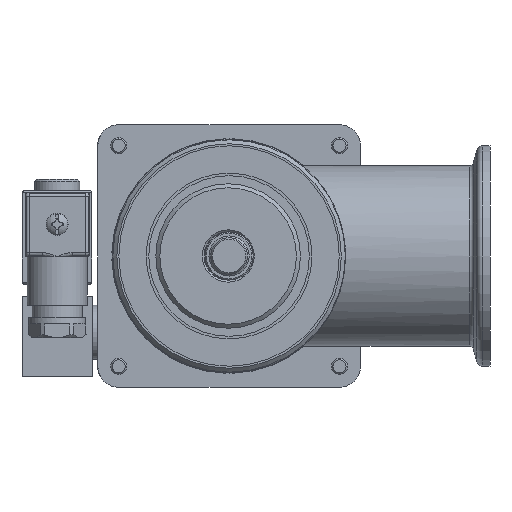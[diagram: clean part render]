
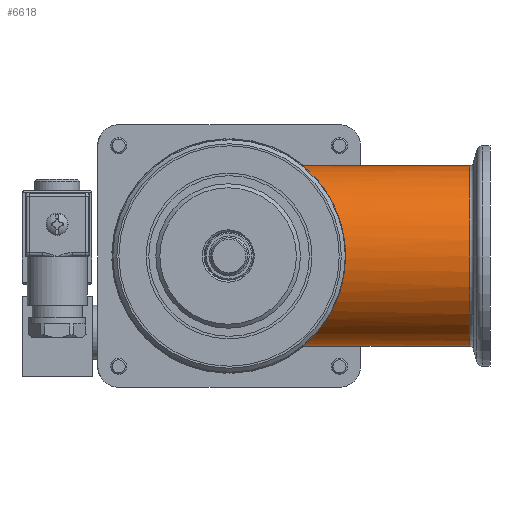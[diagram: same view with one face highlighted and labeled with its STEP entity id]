
A CAD part, front view. The second image highlights one B-rep face of the part: STEP entity #6618.
In plain terms, the highlighted cylindrical face has radius 22.5 mm (diameter 45 mm), a full revolution.
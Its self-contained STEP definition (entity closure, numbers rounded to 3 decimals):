
#1906=B_SPLINE_CURVE_WITH_KNOTS('',3,(#21176,#21177,#21178,#21179,#21180,
#21181,#21182,#21183,#21184,#21185,#21186,#21187,#21188,#21189,#21190,#21191,
#21192,#21193,#21194,#21195,#21196,#21197,#21198,#21199,#21200,#21201,#21202,
#21203,#21204,#21205,#21206,#21207,#21208,#21209),.UNSPECIFIED.,.T.,.F.,
(2,2,2,2,2,2,2,2,2,2,2,2,2,2,2,2,2,2,2),(-0.063,0.,0.063,0.125,0.188,
0.25,0.313,0.375,0.438,0.5,0.563,0.625,0.688,0.75,0.813,0.875,0.938,
1.,1.063),.UNSPECIFIED.);
#5833=CYLINDRICAL_SURFACE('',#16058,22.5);
#6128=FACE_BOUND('',#8384,.T.);
#6129=FACE_BOUND('',#8385,.T.);
#6618=ADVANCED_FACE('',(#6128,#6129),#5833,.T.);
#8384=EDGE_LOOP('',(#9584));
#8385=EDGE_LOOP('',(#9585));
#9584=ORIENTED_EDGE('',*,*,#13880,.T.);
#9585=ORIENTED_EDGE('',*,*,#13881,.F.);
#12665=VERTEX_POINT('',#21175);
#12666=VERTEX_POINT('',#21210);
#13880=EDGE_CURVE('',#12665,#12665,#15444,.T.);
#13881=EDGE_CURVE('',#12666,#12666,#1906,.T.);
#15444=CIRCLE('',#16057,22.5);
#16057=AXIS2_PLACEMENT_3D('',#21174,#17590,#17591);
#16058=AXIS2_PLACEMENT_3D('',#21211,#17592,#17593);
#17590=DIRECTION('',(1.,0.,0.));
#17591=DIRECTION('',(0.,0.,1.));
#17592=DIRECTION('',(-1.,0.,0.));
#17593=DIRECTION('',(0.,0.,1.));
#21174=CARTESIAN_POINT('',(5.094,0.,0.));
#21175=CARTESIAN_POINT('',(5.094,0.,22.5));
#21176=CARTESIAN_POINT('',(46.704,3.147,22.5));
#21177=CARTESIAN_POINT('',(46.704,-3.147,22.5));
#21178=CARTESIAN_POINT('',(45.846,-6.147,21.834));
#21179=CARTESIAN_POINT('',(43.559,-11.43,19.592));
#21180=CARTESIAN_POINT('',(42.145,-13.78,18.006));
#21181=CARTESIAN_POINT('',(39.533,-17.78,14.071));
#21182=CARTESIAN_POINT('',(38.305,-19.454,11.69));
#21183=CARTESIAN_POINT('',(36.531,-21.826,6.225));
#21184=CARTESIAN_POINT('',(36.003,-22.496,3.124));
#21185=CARTESIAN_POINT('',(35.997,-22.504,-3.066));
#21186=CARTESIAN_POINT('',(36.514,-21.847,-6.153));
#21187=CARTESIAN_POINT('',(38.28,-19.489,-11.633));
#21188=CARTESIAN_POINT('',(39.511,-17.811,-14.034));
#21189=CARTESIAN_POINT('',(42.132,-13.802,-17.991));
#21190=CARTESIAN_POINT('',(43.543,-11.46,-19.575));
#21191=CARTESIAN_POINT('',(45.84,-6.169,-21.828));
#21192=CARTESIAN_POINT('',(46.703,-3.139,-22.499));
#21193=CARTESIAN_POINT('',(46.705,3.129,-22.501));
#21194=CARTESIAN_POINT('',(45.847,6.148,-21.834));
#21195=CARTESIAN_POINT('',(43.552,11.444,-19.585));
#21196=CARTESIAN_POINT('',(42.145,13.78,-18.007));
#21197=CARTESIAN_POINT('',(39.533,17.779,-14.072));
#21198=CARTESIAN_POINT('',(38.308,19.45,-11.7));
#21199=CARTESIAN_POINT('',(36.526,21.832,-6.209));
#21200=CARTESIAN_POINT('',(36.003,22.496,-3.117));
#21201=CARTESIAN_POINT('',(35.997,22.504,3.063));
#21202=CARTESIAN_POINT('',(36.513,21.848,6.152));
#21203=CARTESIAN_POINT('',(38.286,19.481,11.649));
#21204=CARTESIAN_POINT('',(39.518,17.802,14.045));
#21205=CARTESIAN_POINT('',(42.136,13.796,17.995));
#21206=CARTESIAN_POINT('',(43.55,11.448,19.582));
#21207=CARTESIAN_POINT('',(45.844,6.156,21.831));
#21208=CARTESIAN_POINT('',(46.704,3.147,22.5));
#21209=CARTESIAN_POINT('',(46.704,-3.147,22.5));
#21210=CARTESIAN_POINT('',(46.704,0.,22.5));
#21211=CARTESIAN_POINT('',(0.,0.,0.));
